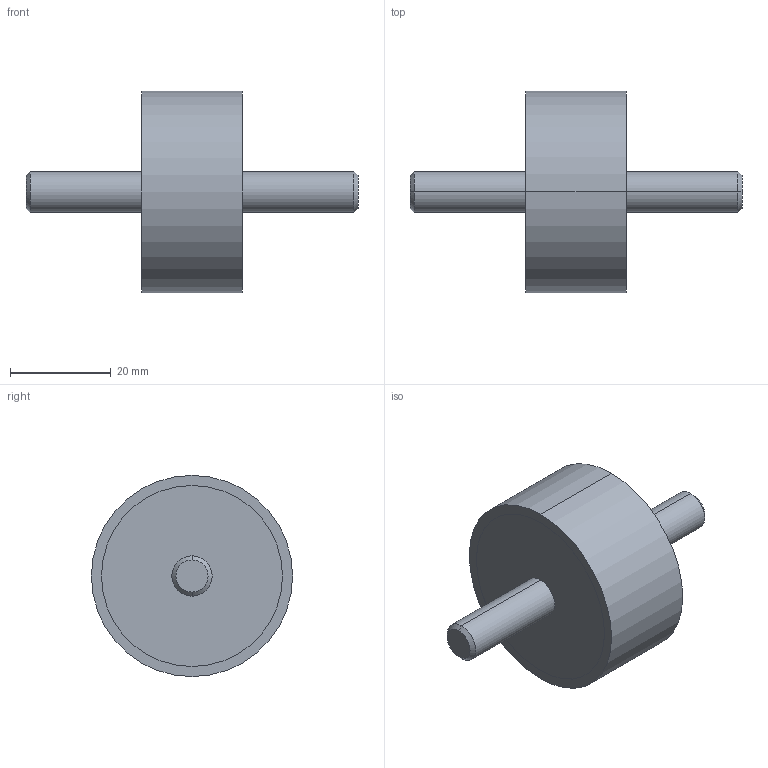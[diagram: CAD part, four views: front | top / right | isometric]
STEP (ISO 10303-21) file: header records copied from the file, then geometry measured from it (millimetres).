
FILE_DESCRIPTION (( 'STEP AP214' ), '1' );
FILE_NAME ('351-40-20-M8-SS-55.step', '2025-07-23T09:53:27', ( '' ), ( '' ), 'SwSTEP 2.0', 'SolidWorks 2022', '' );
FILE_SCHEMA (( 'AUTOMOTIVE_DESIGN' ));
Length unit declared in the file: millimetre
Products named in the file (1): 351-40-20-M8-SS-55
Bounding box: 66 x 40 x 40 mm (x, y, z)
Volume: 27410.6 mm3; surface area: 6160.2 mm2
Topology: 1 solids, 1 shells, 20 faces, 38 edges, 24 vertices
Faces by surface type: cylinder 10, plane 6, cone 4
Entity records: 636 total; most frequent: DIRECTION 104, CARTESIAN_POINT 83, ORIENTED_EDGE 76, AXIS2_PLACEMENT_3D 45, EDGE_CURVE 38, VERTEX_POINT 24, EDGE_LOOP 24, CIRCLE 24
